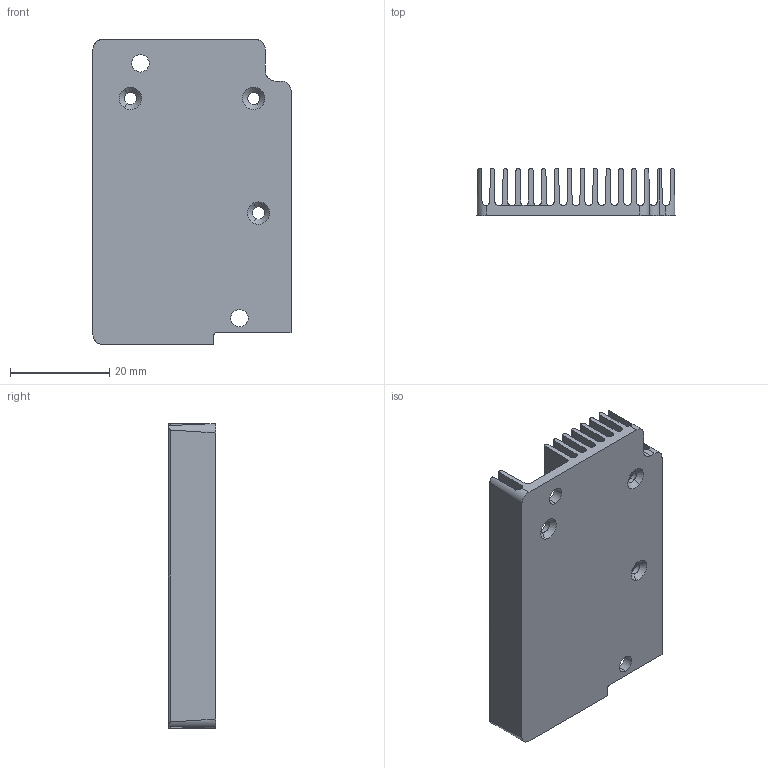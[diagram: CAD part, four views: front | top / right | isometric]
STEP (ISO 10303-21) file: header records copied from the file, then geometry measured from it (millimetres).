
FILE_DESCRIPTION((''),'2;1');
FILE_NAME('5B__X1_0000','2024-08-09T13:50:38',('admin'),(''),'CREO PARAMETRIC BY PTC INC, 2024153','CREO PARAMETRIC BY PTC INC, 2024153','');
FILE_SCHEMA(('CONFIG_CONTROL_DESIGN','SHAPE_APPEARANCE_LAYERS_GROUPS'));
Length unit declared in the file: millimetre
Products named in the file (1): 5B__X1_0000
Bounding box: 40 x 9.5 x 61.6 mm (x, y, z)
Volume: 8428.1 mm3; surface area: 12869.6 mm2
Topology: 1 solids, 1 shells, 217 faces, 656 edges, 444 vertices
Faces by surface type: cylinder 111, plane 100, cone 6
Entity records: 9005 total; most frequent: CARTESIAN_POINT 1780, ORIENTED_EDGE 1312, DIRECTION 1270, COLOUR_RGB 1121, EDGE_CURVE 656, AXIS2_PLACEMENT_3D 445, VERTEX_POINT 444, VECTOR 380
